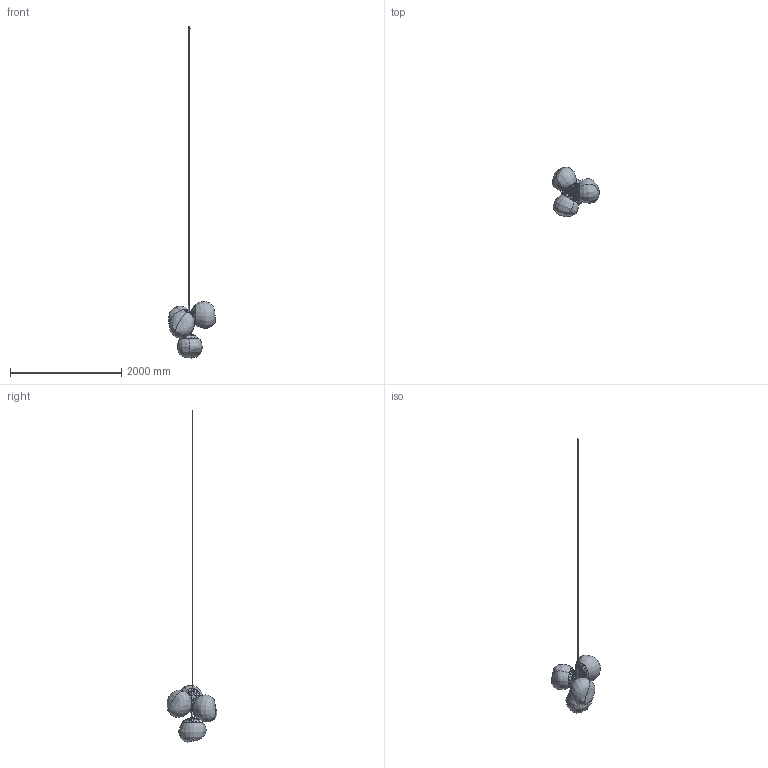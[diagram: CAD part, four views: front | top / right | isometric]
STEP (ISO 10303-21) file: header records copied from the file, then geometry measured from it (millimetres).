
FILE_DESCRIPTION(/* description */ (''),/* implementation_level */ '2;1');
FILE_NAME(/* name */ 'Mini Chandelier',/* time_stamp */ '2022-07-12T14:55:24+01:00',/* author */ (''),/* organization */ (''),/* preprocessor_version */ 'ST-DEVELOPER v16.5',/* originating_system */ '',/* authorisation */ '');
FILE_SCHEMA (('AUTOMOTIVE_DESIGN'));
Length unit declared in the file: millimetre
Products named in the file (61): Document; Block 14; BRASS_TENSILE_WIRE_CLAMP_ANY; ARMATURE_CONNECTING_INSERT_MAIN; SOCKET_SET_SCREW_FLAT_POINT_ISO; MAIN_ARMATURE_ANY; TENSILE_WIRE_MAIN_ARMATURE_ASSE; CABLE_CONNECTOR_MAIN_ARMATURE_A; CABLE_MAIN_ARMATURE_ASSEMBLY_AN; CONNECTING_INSERT_ANY; 2018-03-23_MBA13_ASM-1_MBA-1284; 2018-03-23_MBA13_ASM-1_MBA-5346; 2018-03-23_MBA13_ASM-1_PRT-5533; 2018-03-23_MBA13_ASM-1_PRT-6475; 2018-03-23_MBA13_ASM-1_MBA-9534; 2018-03-23_MBA13_ASM-1_MB-18974; 2018-03-23_MBA13_ASM-1_MB-22071; 2018-03-21_LEDP02_ANY_ASM-24183; 2018-03-23_MBA13_ASM-1_MB-26320; 2018-03-21_LEDP02_ANY_ASM-28397; 2018-03-21_LEDP02_ANY_ASM-30339; 2018-03-23_MBA13_ASM-1_MB-34565; 2018-03-23_MBA13_ASM-1_MB-40904; 2018-03-23_MBA13_ASM-1_MB-41871; 2018-03-23_MBA13_ASM-1_MB-43998; 2018-03-23_MBA13_ASM-1_MB-47073; 2018-03-23_MBA13_ASM-1_MB-54362; 2018-03-23_MBA13_ASM-1_MB-58616; 2018-03-23_MBA13_ASM-1_MB-59559; 2018-03-23_MBA13_ASM-1_MB-60539; 2018-03-23_MBA13_ASM-1_MB-61706; 2018-03-23_MBA13_ASM-1_MB-64766; 2018-03-21_LEDP02_ANY_ASM-66873; 2018-03-23_MBA13_ASM-1_MB-74230; 2018-03-23_MBA13_ASM-1_PR-78469; 2018-03-23_MBA13_ASM-1_MB-79417; 2018-03-23_MBA13_ASM-1_MB-89768; 2018-03-23_MBA13_ASM-1_MB-90747; 2018-03-23_MBA13_ASM-1_MB-97060; 2018-03-23_MBA13_ASM-1_M-102237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
Assembly tree (209 placements, depth 3):
  Document
    Block 14
      BRASS_TENSILE_WIRE_CLAMP_ANY
      ARMATURE_CONNECTING_INSERT_MAIN
      SOCKET_SET_SCREW_FLAT_POINT_ISO
      MAIN_ARMATURE_ANY
      TENSILE_WIRE_MAIN_ARMATURE_ASSE
      CABLE_CONNECTOR_MAIN_ARMATURE_A
      CABLE_MAIN_ARMATURE_ASSEMBLY_AN
      CONNECTING_INSERT_ANY  x3
      2018-03-23_MBA13_ASM-1_MBA-1284  x4
      2018-03-23_MBA13_ASM-1_MBA-5346  x4
      2018-03-23_MBA13_ASM-1_PRT-5533  x4
      2018-03-23_MBA13_ASM-1_PRT-6475  x4
      2018-03-23_MBA13_ASM-1_MBA-9534  x4
      2018-03-23_MBA13_ASM-1_MB-18974  x4
      2018-03-23_MBA13_ASM-1_MB-22071  x4
      2018-03-21_LEDP02_ANY_ASM-24183  x4
      2018-03-23_MBA13_ASM-1_MB-26320  x4
      2018-03-21_LEDP02_ANY_ASM-28397  x4
      2018-03-21_LEDP02_ANY_ASM-30339  x4
      2018-03-23_MBA13_ASM-1_MB-34565  x4
      2018-03-23_MBA13_ASM-1_MB-40904  x4
      2018-03-23_MBA13_ASM-1_MB-41871  x4
      2018-03-23_MBA13_ASM-1_MB-43998  x4
      2018-03-23_MBA13_ASM-1_MB-47073  x4
      2018-03-23_MBA13_ASM-1_MB-54362  x4
      2018-03-23_MBA13_ASM-1_MB-58616  x4
      2018-03-23_MBA13_ASM-1_MB-59559  x4
      2018-03-23_MBA13_ASM-1_MB-60539  x4
      2018-03-23_MBA13_ASM-1_MB-61706  x4
      2018-03-23_MBA13_ASM-1_MB-64766  x4
      2018-03-21_LEDP02_ANY_ASM-66873  x4
      2018-03-23_MBA13_ASM-1_MB-74230  x4
      2018-03-23_MBA13_ASM-1_PR-78469  x4
      2018-03-23_MBA13_ASM-1_MB-79417  x4
      2018-03-23_MBA13_ASM-1_MB-89768  x4
      2018-03-23_MBA13_ASM-1_MB-90747  x4
      2018-03-23_MBA13_ASM-1_MB-97060  x4
      2018-03-23_MBA13_ASM-1_M-102237  x4
      2018-03-23_MBA13_ASM-1_M-109581  x4
      2018-03-23_MBA13_ASM-1_M-112653  x4
      2018-03-23_MBA13_ASM-1_M-114743  x4
      2018-03-23_MBA13_ASM-1_M-119943  x4
      2018-03-23_MBA13_ASM-1_P-122086  x4
      2018-03-23_MBA13_ASM-1_M-125171  x4
      2018-03-23_MBA13_ASM-1_M-127289  x4
      2018-03-23_MBA13_ASM-1_M-128239  x4
      2018-03-23_MBA13_ASM-1_P-132469  x4
      2018-03-21_LEDP02_ANY_AS-134605  x4
      BOSS-EXTRUDE2  x4
      2018-03-23_MBA13_ASM-1_M-150241  x4
      2018-03-23_MBA13_ASM-1_M-155426  x4
      2018-03-23_MBA13_ASM-1_M-158470  x4
      2018-03-23_MBA13_ASM-1_M-160609  x4
      2018-03-23_MBA13_ASM-1_M-162711  x4
      2018-03-23_MBA13_ASM-1_M-164838  x4
      2018-03-23_MBA13_ASM-1_P-166948  x4
    Block 13
      LEDP02_DIFFUSER_VER03-1-SOLID1  x4
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Bounding box: 843.5 x 896.1 x 5974.22 mm (x, y, z)
Volume: 692500 mm3; surface area: 3633386.7 mm2
Topology: 202 solids, 210 shells, 5236 faces, 14853 edges, 10078 vertices
Faces by surface type: bspline 2802, plane 2434
Entity records: 98287 total; most frequent: CARTESIAN_POINT 66266, ORIENTED_EDGE 9701, EDGE_CURVE 4909, B_SPLINE_CURVE_WITH_KNOTS 3707, VERTEX_POINT 3493, EDGE_LOOP 1680, ADVANCED_FACE 1562, FACE_OUTER_BOUND 1562
